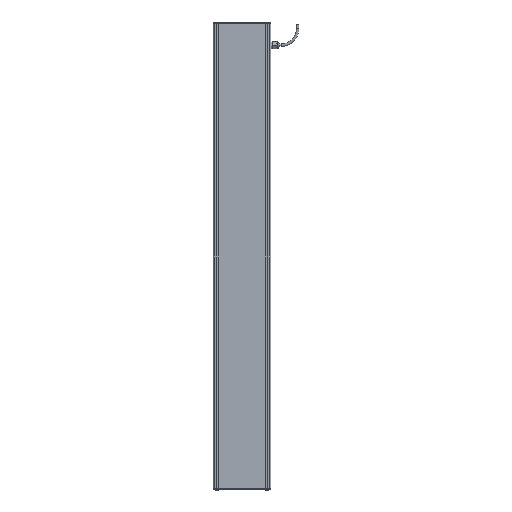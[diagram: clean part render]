
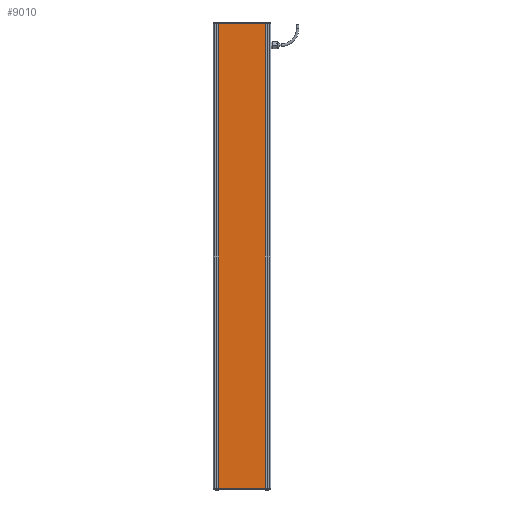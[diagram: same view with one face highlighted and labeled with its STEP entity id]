
A CAD part, front view. The second image highlights one B-rep face of the part: STEP entity #9010.
In plain terms, the highlighted planar face has unit normal (0, -1, 0) as drawn and (0, 0, 1) by its records, which use the part's own axes.
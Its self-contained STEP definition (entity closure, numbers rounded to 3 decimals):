
#653 = VECTOR ( 'NONE', #13024, 1000. ) ;
#969 = EDGE_CURVE ( 'NONE', #2916, #7704, #11978, .T. ) ;
#1228 = VERTEX_POINT ( 'NONE', #4214 ) ;
#1689 = ORIENTED_EDGE ( 'NONE', *, *, #13162, .T. ) ;
#1708 = DIRECTION ( 'NONE',  ( 0., 0., -1. ) ) ;
#2224 = CARTESIAN_POINT ( 'NONE',  ( -9., 0., 0. ) ) ;
#2747 = EDGE_CURVE ( 'NONE', #12991, #1228, #9293, .T. ) ;
#2916 = VERTEX_POINT ( 'NONE', #2224 ) ;
#3122 = DIRECTION ( 'NONE',  ( 0., 1., 0. ) ) ;
#3256 = VECTOR ( 'NONE', #10213, 1000. ) ;
#3759 = CARTESIAN_POINT ( 'NONE',  ( -159., 0., 0. ) ) ;
#4214 = CARTESIAN_POINT ( 'NONE',  ( -9., -1500., 0. ) ) ;
#4786 = AXIS2_PLACEMENT_3D ( 'NONE', #6421, #1708, #6498 ) ;
#4918 = VECTOR ( 'NONE', #15562, 1000. ) ;
#4978 = VECTOR ( 'NONE', #3122, 1000. ) ;
#5357 = ORIENTED_EDGE ( 'NONE', *, *, #969, .T. ) ;
#5425 = EDGE_CURVE ( 'NONE', #1228, #2916, #9287, .T. ) ;
#5744 = CARTESIAN_POINT ( 'NONE',  ( -9., 0., 0. ) ) ;
#6421 = CARTESIAN_POINT ( 'NONE',  ( 0., 0., 0. ) ) ;
#6498 = DIRECTION ( 'NONE',  ( -1., 0., 0. ) ) ;
#7696 = FACE_OUTER_BOUND ( 'NONE', #11647, .T. ) ;
#7704 = VERTEX_POINT ( 'NONE', #3759 ) ;
#9010 = ADVANCED_FACE ( 'NONE', ( #7696 ), #12510, .F. ) ;
#9287 = LINE ( 'NONE', #14096, #4978 ) ;
#9293 = LINE ( 'NONE', #14403, #4918 ) ;
#10213 = DIRECTION ( 'NONE',  ( 0., -1., 0. ) ) ;
#10854 = ORIENTED_EDGE ( 'NONE', *, *, #5425, .T. ) ;
#11164 = ORIENTED_EDGE ( 'NONE', *, *, #2747, .T. ) ;
#11231 = CARTESIAN_POINT ( 'NONE',  ( -159., 0., 0. ) ) ;
#11647 = EDGE_LOOP ( 'NONE', ( #10854, #5357, #1689, #11164 ) ) ;
#11715 = CARTESIAN_POINT ( 'NONE',  ( -159., -1500., 0. ) ) ;
#11978 = LINE ( 'NONE', #5744, #653 ) ;
#12510 = PLANE ( 'NONE',  #4786 ) ;
#12991 = VERTEX_POINT ( 'NONE', #11715 ) ;
#13024 = DIRECTION ( 'NONE',  ( -1., 0., 0. ) ) ;
#13162 = EDGE_CURVE ( 'NONE', #7704, #12991, #13766, .T. ) ;
#13766 = LINE ( 'NONE', #11231, #3256 ) ;
#14096 = CARTESIAN_POINT ( 'NONE',  ( -9., 0., 0. ) ) ;
#14403 = CARTESIAN_POINT ( 'NONE',  ( -9., -1500., 0. ) ) ;
#15562 = DIRECTION ( 'NONE',  ( 1., 0., 0. ) ) ;
